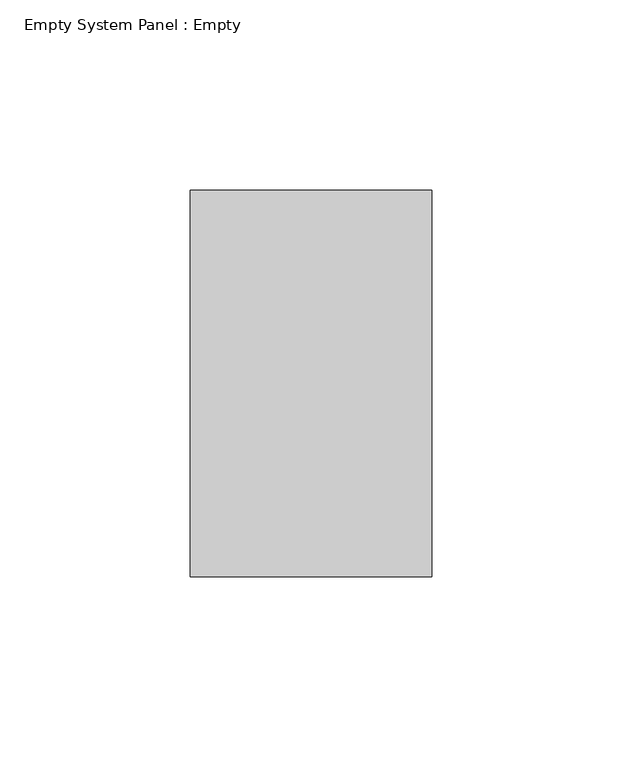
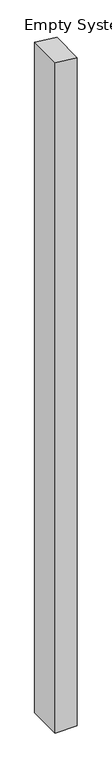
"""IFC4 building model written with IfcOpenShell, lengths in millimetres: plate geometry, Empty System Panel : Empty."""

from ifc_helpers import new_model, si_unit, frame, origin, place, context, project, spatial, polyline, outline, extrude, source, transform, mapped, element, save


def empty_system_panel_empty_8d725086(model_context):
    return source(origin(), model_context, "Body", "SweptSolid", [
        extrude(outline(polyline([(0.0, -31.75), (0.0, 31.75), (2026.8593673, 31.75), (2033.9617263, -31.75), (0.0, -31.75)])), frame((0.0, -50.8, 0.0), z_axis=(0.0, 1.0, 0.0), x_axis=(0.0, 0.0, 1.0)), (0.0, 0.0, 1.0), 101.6),
    ])


if __name__ == "__main__":
    model = new_model("IFC4")
    model_context = context("Model", 3, world=origin())
    ifc_project = project(units=[si_unit("LENGTHUNIT", "METRE", prefix="MILLI")], contexts=[model_context])
    site = spatial("IfcSite", under=ifc_project)
    building = spatial("IfcBuilding", under=site)
    placement = place(None, origin())
    empty_system_panel_empty_shape = empty_system_panel_empty_8d725086(model_context)
    element("IfcPlate", 1, ObjectType="Empty System Panel : Empty", at=placement, inside=building, context=model_context, shape_type="MappedRepresentation", body=[
        mapped(empty_system_panel_empty_shape, transform((0.0, 0.0, 0.0), x_axis=(1.0, 0.0, 0.0), y_axis=(0.0, 1.0, 0.0), z_axis=(0.0, 0.0, 1.0))),
    ])
    save(model, "model.ifc")
